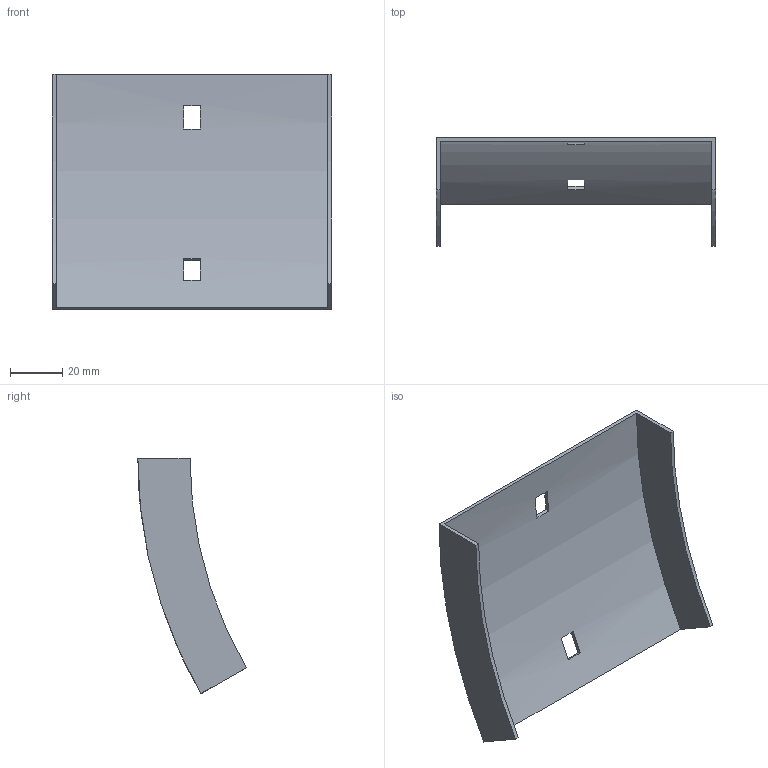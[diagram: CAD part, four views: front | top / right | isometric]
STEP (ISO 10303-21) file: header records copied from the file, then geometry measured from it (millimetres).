
FILE_DESCRIPTION (( 'STEP AP214' ), '1' );
FILE_NAME ('35N1C100.step', '2025-02-21T09:12:53', ( '' ), ( '' ), 'SwSTEP 2.0', 'SolidWorks 2023', '' );
FILE_SCHEMA (( 'AUTOMOTIVE_DESIGN' ));
Length unit declared in the file: millimetre
Products named in the file (1): 35N1C100
Bounding box: 107 x 41.5 x 90.25 mm (x, y, z)
Volume: 19862.4 mm3; surface area: 27261.9 mm2
Topology: 1 solids, 1 shells, 18 faces, 48 edges, 32 vertices
Faces by surface type: plane 14, cylinder 4
Entity records: 599 total; most frequent: DIRECTION 102, CARTESIAN_POINT 99, ORIENTED_EDGE 96, EDGE_CURVE 48, AXIS2_PLACEMENT_3D 35, VERTEX_POINT 32, VECTOR 32, LINE 32
